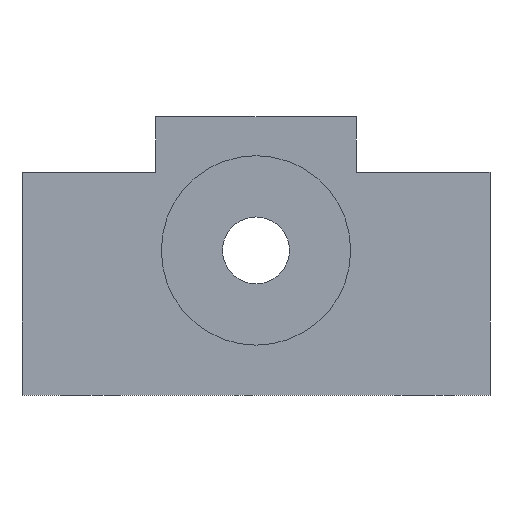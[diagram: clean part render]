
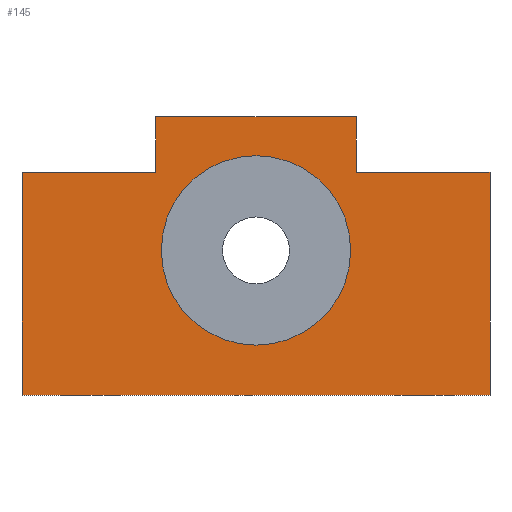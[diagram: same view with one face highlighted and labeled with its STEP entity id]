
A CAD part, left-side view. The second image highlights one B-rep face of the part: STEP entity #145.
In plain terms, the highlighted planar face has unit normal (-1, 0, 0).
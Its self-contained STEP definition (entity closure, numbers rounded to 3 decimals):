
#79=LINE('',#550,#103);
#82=LINE('',#556,#106);
#85=LINE('',#562,#109);
#86=LINE('',#564,#110);
#87=LINE('',#566,#111);
#88=LINE('',#568,#112);
#89=LINE('',#570,#113);
#90=LINE('',#572,#114);
#103=VECTOR('',#452,1.);
#106=VECTOR('',#457,1.);
#109=VECTOR('',#462,1.);
#110=VECTOR('',#463,1.);
#111=VECTOR('',#464,1.);
#112=VECTOR('',#465,1.);
#113=VECTOR('',#466,1.);
#114=VECTOR('',#467,1.);
#129=PLANE('',#408);
#145=ADVANCED_FACE('',(#176,#177),#129,.F.);
#176=FACE_BOUND('',#210,.T.);
#177=FACE_BOUND('',#211,.T.);
#210=EDGE_LOOP('',(#254,#255,#256,#257,#258,#259,#260,#261));
#211=EDGE_LOOP('',(#262));
#254=ORIENTED_EDGE('',*,*,#350,.F.);
#255=ORIENTED_EDGE('',*,*,#356,.F.);
#256=ORIENTED_EDGE('',*,*,#357,.F.);
#257=ORIENTED_EDGE('',*,*,#358,.F.);
#258=ORIENTED_EDGE('',*,*,#359,.F.);
#259=ORIENTED_EDGE('',*,*,#360,.F.);
#260=ORIENTED_EDGE('',*,*,#361,.F.);
#261=ORIENTED_EDGE('',*,*,#353,.F.);
#262=ORIENTED_EDGE('',*,*,#362,.T.);
#319=VERTEX_POINT('',#548);
#321=VERTEX_POINT('',#551);
#323=VERTEX_POINT('',#557);
#325=VERTEX_POINT('',#563);
#326=VERTEX_POINT('',#565);
#327=VERTEX_POINT('',#567);
#328=VERTEX_POINT('',#569);
#329=VERTEX_POINT('',#571);
#330=VERTEX_POINT('',#574);
#350=EDGE_CURVE('LINE',#319,#321,#79,.T.);
#353=EDGE_CURVE('LINE',#321,#323,#82,.T.);
#356=EDGE_CURVE('LINE',#325,#319,#85,.T.);
#357=EDGE_CURVE('LINE',#326,#325,#86,.T.);
#358=EDGE_CURVE('LINE',#327,#326,#87,.T.);
#359=EDGE_CURVE('LINE',#328,#327,#88,.T.);
#360=EDGE_CURVE('LINE',#329,#328,#89,.T.);
#361=EDGE_CURVE('LINE',#323,#329,#90,.T.);
#362=EDGE_CURVE('GENERATED CIRCLE',#330,#330,#387,.T.);
#387=CIRCLE('',#407,8.5);
#407=AXIS2_PLACEMENT_3D('',#573,#468,#469);
#408=AXIS2_PLACEMENT_3D('',#575,#470,#471);
#452=DIRECTION('',(0.,-1.,0.));
#457=DIRECTION('',(0.,0.,-1.));
#462=DIRECTION('',(0.,0.,-1.));
#463=DIRECTION('',(0.,-1.,0.));
#464=DIRECTION('',(0.,0.,1.));
#465=DIRECTION('',(0.,-1.,0.));
#466=DIRECTION('',(0.,0.,1.));
#467=DIRECTION('',(0.,1.,0.));
#468=DIRECTION('',(1.,0.,0.));
#469=DIRECTION('',(0.,0.,-1.));
#470=DIRECTION('',(1.,0.,0.));
#471=DIRECTION('',(0.,-1.,0.));
#548=CARTESIAN_POINT('',(-6.,-9.,20.));
#550=CARTESIAN_POINT('',(-6.,-15.,20.));
#551=CARTESIAN_POINT('',(-6.,-21.,20.));
#556=CARTESIAN_POINT('',(-6.,-21.,10.));
#557=CARTESIAN_POINT('',(-6.,-21.,0.));
#562=CARTESIAN_POINT('',(-6.,-9.,22.5));
#563=CARTESIAN_POINT('',(-6.,-9.,25.));
#564=CARTESIAN_POINT('',(-6.,0.,25.));
#565=CARTESIAN_POINT('',(-6.,9.,25.));
#566=CARTESIAN_POINT('',(-6.,9.,22.5));
#567=CARTESIAN_POINT('',(-6.,9.,20.));
#568=CARTESIAN_POINT('',(-6.,15.,20.));
#569=CARTESIAN_POINT('',(-6.,21.,20.));
#570=CARTESIAN_POINT('',(-6.,21.,10.));
#571=CARTESIAN_POINT('',(-6.,21.,0.));
#572=CARTESIAN_POINT('',(-6.,0.,0.));
#573=CARTESIAN_POINT('',(-6.,0.,13.));
#574=CARTESIAN_POINT('',(-6.,0.,4.5));
#575=CARTESIAN_POINT('',(-6.,0.,0.));
